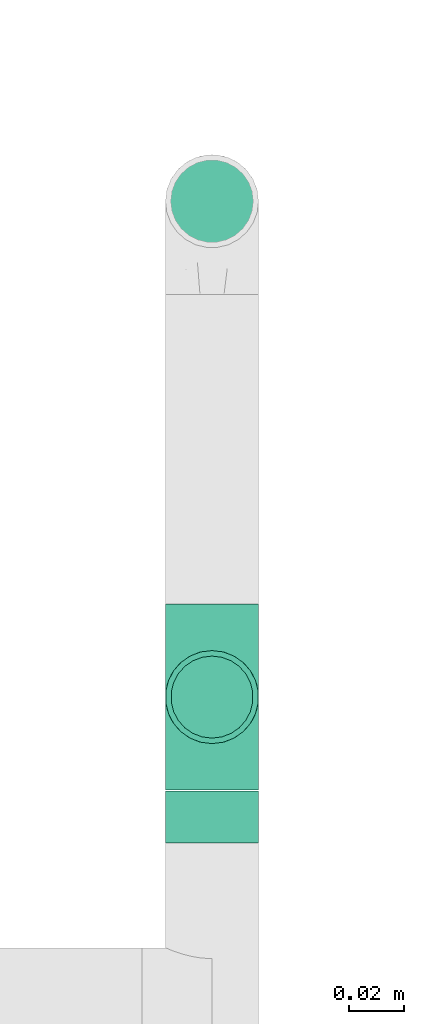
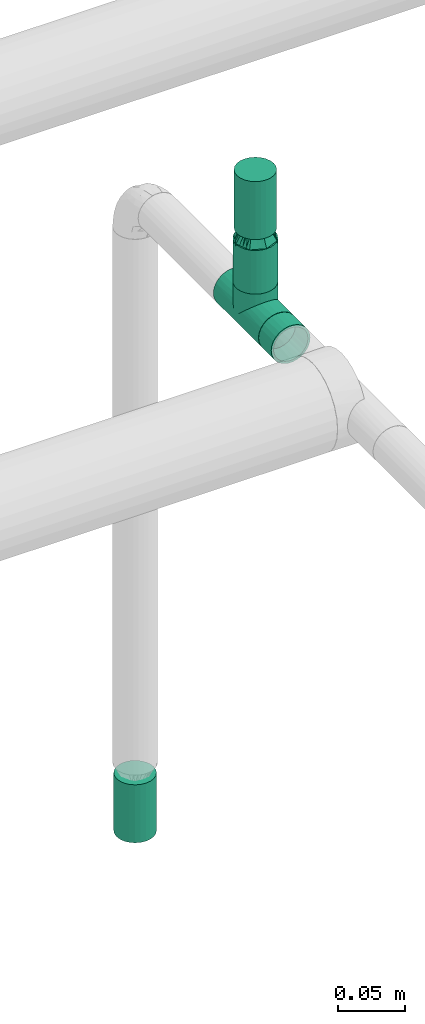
# One storey, part 18 of 51: 2 flow fittings, 2 flow segments, 2 flow terminals.
"""IFC2X3 building model written with IfcOpenShell, lengths in millimetres."""

from ifc_helpers import new_model, entity, si_unit, converted_unit, derived_unit, direction, frame, origin_with_axes, origin_2d_with_axis, place, context, subcontext, project, spatial, hollow_circle, extrude, open_shell, surface_model, source, transform, mapped, type_object, element, save


model = new_model("IFC2X3")

# Units and contexts
model_context = context("Model", 3, precision=0.01, world=frame((0.0, 4.29681676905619e-09, 0.0)), true_north=direction((4.01073788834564e-13, 1.0)))
plan_context = context("Plan", 3, precision=0.01, world=frame((0.0, 4.29681676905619e-09, 0.0)), true_north=direction((4.01073788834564e-13, 1.0)))
body_context = subcontext(model_context, "Body", "Model", "MODEL_VIEW")
ifc_project = project(units=[converted_unit("PLANEANGLEUNIT", "DEGREE", entity("IfcPositiveLengthMeasure", 0.0174532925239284), si_unit("PLANEANGLEUNIT", "RADIAN"), dimensions=[0, 0, 0, 0, 0, 0, 0]), si_unit("AREAUNIT", "SQUARE_METRE"), si_unit("LENGTHUNIT", "METRE", prefix="MILLI"), si_unit("MASSUNIT", "GRAM", prefix="KILO"), si_unit("POWERUNIT", "WATT"), si_unit("PRESSUREUNIT", "PASCAL"), si_unit("FORCEUNIT", "NEWTON", prefix="KILO"), si_unit("ELECTRICVOLTAGEUNIT", "VOLT"), si_unit("ELECTRICCURRENTUNIT", "AMPERE"), si_unit("THERMODYNAMICTEMPERATUREUNIT", "DEGREE_CELSIUS"), si_unit("TIMEUNIT", "SECOND"), si_unit("VOLUMEUNIT", "CUBIC_METRE"), derived_unit("LINEARVELOCITYUNIT", [(si_unit("LENGTHUNIT", "METRE"), 1), (si_unit("TIMEUNIT", "SECOND"), -1)]), derived_unit("VOLUMETRICFLOWRATEUNIT", [(si_unit("VOLUMEUNIT", "CUBIC_METRE"), 1), (si_unit("TIMEUNIT", "SECOND"), -1)]), derived_unit("THERMALTRANSMITTANCEUNIT", [(si_unit("POWERUNIT", "WATT"), 1), (si_unit("THERMODYNAMICTEMPERATUREUNIT", "KELVIN"), -1), (si_unit("AREAUNIT", "SQUARE_METRE"), -1)]), derived_unit("SOUNDPRESSUREUNIT", [(si_unit("PRESSUREUNIT", "PASCAL"), 1)])], contexts=[model_context, plan_context])

# Site, building, storey
site_placement = place(None, frame((0.0, -4.29681676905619e-09, 0.0), z_axis=(0.0, 0.0, 1.0), x_axis=(1.0, 0.0, 0.0)))
site = spatial("IfcSite", under=ifc_project, at=site_placement, Name="ENGM", CompositionType="ELEMENT")
building_placement = place(site_placement, frame((0.0, 4.29681676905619e-09, 0.0), z_axis=(0.0, 0.0, 1.0), x_axis=(1.0, 0.0, 0.0)))
building = spatial("IfcBuilding", under=site, at=building_placement, Name="TH", CompositionType="ELEMENT")
storey_placement = place(building_placement, frame((0.0, 0.0, 210200.0), z_axis=(0.0, 0.0, 1.0), x_axis=(1.0, 0.0, 0.0)))
storey = spatial("IfcBuildingStorey", under=building, at=storey_placement, Name="Nivå F - 0,7 m", CompositionType="ELEMENT", Elevation=210200.0)

# Flow fittings
pipe_fitting_type_1 = type_object("IfcPipeFittingType", Name="magi_pipe_fe_reducer_centric_short_NOR", PredefinedType="TRANSITION")
shared_shape_1 = source(origin_with_axes(), body_context, "Body", "SurfaceModel", [
    surface_model("IfcShellBasedSurfaceModel", [(14.4, 4.37404, -16.32415), (14.4, 8.45, -14.63583), (14.4, 11.9501, -11.9501), (14.4, -8.45, -14.63583), (14.4, 16.32415, -4.37404), (14.4, 16.32415, 4.37404), (14.4, 14.63583, -8.45), (14.4, 0.0, -16.9), (14.4, -4.37404, -16.32415), (14.4, -11.9501, -11.9501), (14.4, -16.32415, -4.37404), (14.4, -14.63583, -8.45), (14.4, -16.32415, 4.37404), (14.4, 16.9, 0.0), (14.4, 14.63583, 8.45), (14.4, 11.9501, 11.9501), (14.4, 4.37404, 16.32415), (14.4, 8.45, 14.63583), (14.4, 0.0, 16.9), (14.4, -14.63583, 8.45), (14.4, -16.9, 0.0), (14.4, -8.45, 14.63583), (14.4, -11.9501, 11.9501), (14.4, -4.37404, 16.32415), (12.4, 4.37404, 16.32415), (12.4, -14.63583, 8.45), (12.4, 0.0, 16.9), (12.4, 16.32415, 4.37404), (12.4, 8.45, 14.63583), (12.4, 11.9501, 11.9501), (12.4, 14.63583, 8.45), (12.4, -8.45, 14.63583), (12.4, -11.9501, 11.9501), (12.4, -4.37404, 16.32415), (12.4, -16.32415, 4.37404), (12.4, -16.32415, -4.37404), (12.4, -16.9, 0.0), (12.4, -8.45, -14.63583), (12.4, 16.32415, -4.37404), (12.4, 11.9501, -11.9501), (12.4, 14.63583, -8.45), (12.4, 8.45, -14.63583), (12.4, 4.37404, -16.32415), (12.4, 0.0, -16.9), (12.4, -11.9501, -11.9501), (12.4, -14.63583, -8.45), (12.4, -4.37404, -16.32415), (12.4, 16.9, 0.0), (-2.0, 10.33541, 2.76936), (-2.0, 0.0, 10.7), (-2.0, 2.76936, 10.33541), (-2.0, 7.56604, 7.56604), (-2.0, 5.35, 9.26647), (-2.0, 9.26647, 5.35), (-2.0, -9.26647, 5.35), (-2.0, -2.76936, 10.33541), (-2.0, -7.56604, 7.56604), (-2.0, -5.35, 9.26647), (-2.0, -10.33541, 2.76936), (-2.0, -10.33541, -2.76936), (-2.0, -10.7, 0.0), (-2.0, 10.33541, -2.76936), (-2.0, 7.56604, -7.56604), (-2.0, 9.26647, -5.35), (-2.0, 5.35, -9.26647), (-2.0, -5.35, -9.26647), (-2.0, 2.76936, -10.33541), (-2.0, -7.56604, -7.56604), (-2.0, -9.26647, -5.35), (-2.0, 0.0, -10.7), (-2.0, -2.76936, -10.33541), (-2.0, 10.7, 0.0), (0.0, 5.35, -9.26647), (0.0, 0.0, -10.7), (0.0, 2.76936, -10.33541), (0.0, 10.33541, -2.76936), (0.0, 7.56604, -7.56604), (0.0, -5.35, -9.26647), (0.0, 9.26647, -5.35), (0.0, -9.26647, 5.35), (0.0, -2.76936, -10.33541), (0.0, -7.56604, -7.56604), (0.0, -10.33541, -2.76936), (0.0, -9.26647, -5.35), (0.0, 10.33541, 2.76936), (0.0, 10.7, 0.0), (0.0, 9.26647, 5.35), (0.0, 7.56604, 7.56604), (0.0, 2.76936, 10.33541), (0.0, 0.0, 10.7), (0.0, 5.35, 9.26647), (0.0, -10.33541, 2.76936), (0.0, -10.7, 0.0), (0.0, -7.56604, 7.56604), (0.0, -2.76936, 10.33541), (0.0, -5.35, 9.26647), (0.0, -9.3625, -2.31662), (12.4, -14.42505, -5.97505), (12.4, -15.66253, -2.98753), (0.0, 6.6875, -6.94985), (12.4, 8.96258, -13.18758), (0.0, -6.6875, -6.94985), (12.4, -8.96258, -13.18758), (0.0, 9.3625, -2.31662), (12.4, 15.66253, -2.98753), (12.4, 14.42505, -5.97505), (12.4, -5.97505, -14.42505), (12.4, 5.97505, -14.42505), (0.0, 2.675, -9.26647), (12.4, 13.18758, -8.96258), (0.0, -2.675, -9.26647), (12.4, -13.18758, -8.96258), (0.0, -8.025, -4.63324), (12.4, 2.98753, -15.66253), (0.0, 0.0, -9.26647), (12.4, -2.98753, -15.66253), (0.0, 8.025, -4.63324), (0.0, 9.3625, 2.31662), (12.4, 14.42505, 5.97505), (12.4, 15.66253, 2.98753), (0.0, -6.6875, 6.94985), (12.4, -8.96258, 13.18758), (0.0, 6.6875, 6.94985), (12.4, 8.96258, 13.18758), (0.0, -9.3625, 2.31662), (12.4, -15.66253, 2.98753), (12.4, -14.42505, 5.97505), (12.4, 5.97505, 14.42505), (12.4, -5.97505, 14.42505), (0.0, -2.675, 9.26647), (12.4, -13.18758, 8.96258), (0.0, 2.675, 9.26647), (12.4, 13.18758, 8.96258), (0.0, 8.025, 4.63324), (12.4, -2.98753, 15.66253), (0.0, 0.0, 9.26647), (12.4, 2.98753, 15.66253), (0.0, -8.025, 4.63324)], [open_shell([[[0, 1, 2]], [[3, 0, 2]], [[2, 4, 5]], [[4, 2, 6]], [[2, 5, 3]], [[7, 3, 8]], [[7, 0, 3]], [[9, 10, 11]], [[10, 9, 3]], [[3, 12, 10]], [[5, 4, 13]], [[5, 14, 15]], [[5, 15, 16]], [[16, 12, 3]], [[16, 15, 17]], [[12, 16, 18]], [[18, 19, 12]], [[20, 10, 12]], [[19, 21, 22]], [[19, 18, 21]], [[21, 18, 23]], [[3, 5, 16]], [[24, 25, 26]], [[27, 24, 28]], [[29, 30, 27]], [[29, 27, 28]], [[25, 24, 27]], [[31, 25, 32]], [[31, 33, 26]], [[26, 25, 31]], [[34, 25, 27]], [[34, 35, 36]], [[34, 27, 37]], [[27, 38, 39]], [[39, 38, 40]], [[39, 41, 42]], [[37, 27, 39]], [[42, 43, 39]], [[35, 44, 45]], [[44, 35, 37]], [[37, 43, 46]], [[35, 34, 37]], [[39, 43, 37]], [[38, 27, 47]], [[35, 10, 36]], [[45, 11, 35]], [[3, 44, 37]], [[45, 44, 9]], [[8, 37, 46]], [[35, 11, 10]], [[10, 20, 36]], [[8, 3, 37]], [[9, 44, 3]], [[9, 11, 45]], [[7, 8, 46]], [[46, 43, 7]], [[42, 0, 43]], [[41, 1, 42]], [[6, 39, 40]], [[41, 39, 2]], [[4, 40, 38]], [[41, 2, 1]], [[1, 0, 42]], [[13, 4, 38]], [[6, 40, 4]], [[6, 2, 39]], [[47, 13, 38]], [[43, 0, 7]], [[27, 5, 47]], [[30, 14, 27]], [[17, 29, 28]], [[30, 29, 15]], [[16, 28, 24]], [[27, 14, 5]], [[5, 13, 47]], [[16, 17, 28]], [[15, 29, 17]], [[15, 14, 30]], [[18, 16, 24]], [[24, 26, 18]], [[33, 23, 26]], [[31, 21, 33]], [[19, 32, 25]], [[31, 32, 22]], [[12, 25, 34]], [[31, 22, 21]], [[21, 23, 33]], [[20, 12, 34]], [[19, 25, 12]], [[19, 22, 32]], [[36, 20, 34]], [[26, 23, 18]], [[48, 49, 50]], [[51, 50, 52]], [[51, 53, 48]], [[51, 48, 50]], [[49, 48, 54]], [[55, 56, 57]], [[56, 55, 54]], [[58, 59, 60]], [[54, 55, 49]], [[58, 54, 59]], [[54, 48, 61]], [[59, 54, 61]], [[62, 61, 63]], [[59, 62, 64]], [[61, 62, 59]], [[65, 64, 66]], [[59, 67, 68]], [[67, 59, 65]], [[65, 69, 70]], [[65, 59, 64]], [[66, 69, 65]], [[61, 48, 71]], [[72, 73, 74]], [[75, 72, 76]], [[77, 72, 75]], [[75, 76, 78]], [[79, 77, 75]], [[73, 77, 80]], [[73, 72, 77]], [[81, 82, 83]], [[82, 81, 77]], [[77, 79, 82]], [[84, 75, 85]], [[84, 86, 87]], [[75, 87, 79]], [[88, 89, 87]], [[88, 87, 90]], [[79, 87, 89]], [[82, 91, 92]], [[79, 91, 82]], [[93, 94, 95]], [[94, 93, 79]], [[89, 94, 79]], [[75, 84, 87]], [[59, 82, 60]], [[68, 83, 59]], [[77, 67, 65]], [[68, 67, 81]], [[80, 65, 70]], [[59, 83, 82]], [[82, 92, 60]], [[80, 77, 65]], [[81, 67, 77]], [[81, 83, 68]], [[73, 80, 70]], [[70, 69, 73]], [[66, 74, 69]], [[64, 72, 66]], [[78, 62, 63]], [[64, 62, 76]], [[75, 63, 61]], [[64, 76, 72]], [[72, 74, 66]], [[85, 75, 61]], [[78, 63, 75]], [[78, 76, 62]], [[71, 85, 61]], [[69, 74, 73]], [[48, 84, 71]], [[53, 86, 48]], [[90, 51, 52]], [[53, 51, 87]], [[88, 52, 50]], [[48, 86, 84]], [[84, 85, 71]], [[88, 90, 52]], [[87, 51, 90]], [[87, 86, 53]], [[89, 88, 50]], [[50, 49, 89]], [[55, 94, 49]], [[57, 95, 55]], [[79, 56, 54]], [[57, 56, 93]], [[91, 54, 58]], [[57, 93, 95]], [[95, 94, 55]], [[92, 91, 58]], [[79, 54, 91]], [[79, 93, 56]], [[60, 92, 58]], [[49, 94, 89]], [[29, 26, 39]], [[39, 47, 29]], [[36, 26, 32]], [[36, 44, 43]], [[43, 39, 36]], [[36, 39, 26]], [[92, 95, 77]], [[85, 95, 90]], [[85, 72, 77]], [[85, 77, 95]], [[96, 97, 98]], [[92, 96, 98]], [[99, 100, 72]], [[98, 36, 92]], [[44, 101, 102]], [[101, 77, 102]], [[103, 104, 105]], [[85, 47, 104]], [[77, 106, 102]], [[107, 108, 72]], [[109, 39, 99]], [[106, 77, 110]], [[101, 111, 112]], [[113, 114, 108]], [[100, 99, 39]], [[110, 115, 106]], [[99, 116, 109]], [[100, 107, 72]], [[96, 112, 97]], [[105, 116, 103]], [[85, 104, 103]], [[108, 107, 113]], [[113, 43, 114]], [[116, 105, 109]], [[114, 115, 110]], [[43, 115, 114]], [[111, 101, 44]], [[111, 97, 112]], [[117, 118, 119]], [[85, 117, 119]], [[120, 121, 95]], [[119, 47, 85]], [[29, 122, 123]], [[122, 90, 123]], [[124, 125, 126]], [[92, 36, 125]], [[90, 127, 123]], [[128, 129, 95]], [[130, 32, 120]], [[127, 90, 131]], [[122, 132, 133]], [[134, 135, 129]], [[121, 120, 32]], [[131, 136, 127]], [[120, 137, 130]], [[121, 128, 95]], [[117, 133, 118]], [[126, 137, 124]], [[92, 125, 124]], [[129, 128, 134]], [[134, 26, 135]], [[137, 126, 130]], [[135, 136, 131]], [[26, 136, 135]], [[132, 122, 29]], [[132, 118, 133]]])]),
])
flow_fitting_1_placement = place(storey_placement, frame((897100.0, 483988.59352, 3010.65001000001), z_axis=(1.0, 0.0, 0.0), x_axis=(0.0, 0.0, -1.0)))
element("IfcFlowFitting", 1, at=flow_fitting_1_placement, inside=storey, type_object=pipe_fitting_type_1, Name="magi_pipe_fe_reducer_centric_short_NOR", context=body_context, shape_type="MappedRepresentation", body=[
    mapped(shared_shape_1, transform((0.0, 0.0, 0.0), scale=1.0)),
])
pipe_fitting_type_2 = type_object("IfcPipeFittingType", Name="magi_pipe_fe_tee_centric_90_NOR", PredefinedType="JUNCTION")
shared_shape_2 = source(origin_with_axes(), body_context, "Body", "SurfaceModel", [
    surface_model("IfcShellBasedSurfaceModel", [(-33.8, 4.37404, -16.32415), (-33.8, 0.0, -16.9), (-33.8, 16.32415, -4.37404), (-33.8, 8.45, -14.63583), (-33.8, 11.9501, -11.9501), (-33.8, 14.63583, -8.45), (-33.8, -16.9, 0.0), (-33.8, -11.9501, -11.9501), (-33.8, -14.63583, -8.45), (-33.8, -8.45, -14.63583), (-33.8, -4.37404, -16.32415), (-33.8, -16.32415, -4.37404), (-33.8, 14.63583, 8.45), (-33.8, 16.32415, 4.37404), (-33.8, -8.45, 14.63583), (-33.8, 8.45, 14.63583), (-33.8, 11.9501, 11.9501), (-33.8, 4.37404, 16.32415), (-33.8, 0.0, 16.9), (-33.8, -11.9501, 11.9501), (-33.8, -14.63583, 8.45), (-33.8, -16.32415, 4.37404), (-33.8, -4.37404, 16.32415), (-33.8, 16.9, 0.0), (33.8, 4.37404, -16.32415), (33.8, -16.9, 0.0), (33.8, 0.0, -16.9), (33.8, 14.63583, -8.45), (33.8, 8.45, -14.63583), (33.8, 16.32415, -4.37404), (33.8, 11.9501, -11.9501), (33.8, -16.32415, 4.37404), (33.8, -8.45, -14.63583), (33.8, -4.37404, -16.32415), (33.8, -11.9501, -11.9501), (33.8, -14.63583, -8.45), (33.8, -16.32415, -4.37404), (33.8, 16.32415, 4.37404), (33.8, 8.45, 14.63583), (33.8, 14.63583, 8.45), (33.8, 11.9501, 11.9501), (33.8, -8.45, 14.63583), (33.8, 4.37404, 16.32415), (33.8, -14.63583, 8.45), (33.8, -11.9501, 11.9501), (33.8, 0.0, 16.9), (33.8, -4.37404, 16.32415), (33.8, 16.9, 0.0), (16.28698, -16.28698, 4.51047), (16.9, -16.9, 0.0), (14.62704, -14.62704, 8.4652), (9.47213, -9.47213, 13.99602), (12.26343, -12.26343, 11.62834), (-16.9, -16.9, 0.0), (-16.28698, -16.28698, 4.51047), (-14.62704, -14.62704, 8.4652), (-12.26343, -12.26343, 11.62834), (-9.47213, -9.47213, 13.99602), (-6.42894, -6.42894, 15.62942), (6.42894, -6.42894, 15.62942), (3.24522, -3.24522, 16.58549), (0.0, 0.0, 16.9), (-3.24522, -3.24522, 16.58549), (3.24522, -3.24522, -16.58549), (0.0, 0.0, -16.9), (-3.24522, -3.24522, -16.58549), (-6.42894, -6.42894, -15.62942), (6.42894, -6.42894, -15.62942), (9.47213, -9.47213, -13.99602), (12.26343, -12.26343, -11.62834), (14.62704, -14.62704, -8.4652), (16.28698, -16.28698, -4.51047), (-9.47213, -9.47213, -13.99602), (-12.26343, -12.26343, -11.62834), (-16.28698, -16.28698, -4.51047), (-14.62704, -14.62704, -8.4652), (4.37404, -25.35, -16.32415), (-16.9, -25.35, 0.0), (0.0, -25.35, -16.9), (14.63583, -25.35, -8.45), (8.45, -25.35, -14.63583), (16.32415, -25.35, -4.37404), (11.9501, -25.35, -11.9501), (-11.9501, -25.35, -11.9501), (-8.45, -25.35, -14.63583), (-4.37404, -25.35, -16.32415), (-14.63583, -25.35, -8.45), (-16.32415, -25.35, -4.37404), (16.9, -25.35, 0.0), (8.45, -25.35, 14.63583), (16.32415, -25.35, 4.37404), (14.63583, -25.35, 8.45), (-8.45, -25.35, 14.63583), (11.9501, -25.35, 11.9501), (4.37404, -25.35, 16.32415), (-16.32415, -25.35, 4.37404), (-11.9501, -25.35, 11.9501), (-14.63583, -25.35, 8.45), (0.0, -25.35, 16.9), (-4.37404, -25.35, 16.32415)], [open_shell([[[0, 1, 2]], [[3, 0, 4]], [[0, 2, 5]], [[4, 0, 5]], [[6, 2, 1]], [[7, 8, 9]], [[1, 10, 9]], [[11, 6, 8]], [[1, 9, 8]], [[1, 8, 6]], [[6, 12, 2]], [[12, 13, 2]], [[14, 12, 6]], [[12, 14, 15]], [[16, 12, 15]], [[17, 15, 18]], [[19, 14, 20]], [[21, 20, 14]], [[22, 18, 14]], [[14, 6, 21]], [[14, 18, 15]], [[23, 2, 13]], [[24, 25, 26]], [[27, 24, 28]], [[27, 29, 24]], [[27, 28, 30]], [[31, 25, 24]], [[26, 32, 33]], [[26, 34, 32]], [[35, 25, 36]], [[35, 34, 26]], [[25, 35, 26]], [[24, 29, 31]], [[29, 37, 38]], [[38, 37, 39]], [[38, 31, 29]], [[38, 39, 40]], [[41, 38, 42]], [[43, 41, 44]], [[41, 43, 31]], [[41, 45, 46]], [[41, 31, 38]], [[42, 45, 41]], [[29, 47, 37]], [[31, 43, 48]], [[25, 31, 49]], [[49, 31, 48]], [[43, 50, 48]], [[44, 41, 51]], [[50, 43, 52]], [[51, 52, 44]], [[52, 43, 44]], [[53, 54, 21]], [[53, 21, 6]], [[21, 54, 20]], [[54, 55, 20]], [[56, 57, 19]], [[19, 20, 56]], [[19, 57, 14]], [[56, 20, 55]], [[14, 57, 58]], [[51, 41, 59]], [[60, 45, 61]], [[59, 46, 60]], [[46, 59, 41]], [[60, 46, 45]], [[61, 45, 42]], [[39, 37, 13]], [[16, 38, 40]], [[12, 40, 39]], [[42, 38, 15]], [[23, 37, 47]], [[62, 61, 18]], [[62, 22, 58]], [[22, 62, 18]], [[58, 22, 14]], [[61, 17, 18]], [[42, 17, 61]], [[15, 17, 42]], [[15, 38, 16]], [[12, 16, 40]], [[13, 12, 39]], [[37, 23, 13]], [[5, 27, 30]], [[23, 47, 29]], [[30, 28, 3]], [[27, 2, 29]], [[26, 33, 63]], [[26, 64, 24]], [[64, 26, 63]], [[28, 24, 0]], [[64, 0, 24]], [[4, 30, 3]], [[2, 27, 5]], [[5, 30, 4]], [[2, 23, 29]], [[65, 66, 10]], [[1, 0, 64]], [[1, 65, 10]], [[66, 9, 10]], [[0, 3, 28]], [[1, 64, 65]], [[63, 33, 67]], [[32, 34, 68]], [[69, 68, 34]], [[35, 70, 69]], [[69, 34, 35]], [[32, 68, 67]], [[36, 25, 49]], [[36, 71, 35]], [[71, 36, 49]], [[35, 71, 70]], [[72, 9, 66]], [[72, 7, 9]], [[7, 72, 73]], [[7, 73, 8]], [[74, 53, 11]], [[75, 74, 8]], [[74, 11, 8]], [[11, 53, 6]], [[75, 8, 73]], [[32, 67, 33]], [[76, 77, 78]], [[79, 76, 80]], [[79, 81, 76]], [[79, 80, 82]], [[77, 76, 81]], [[78, 83, 84]], [[84, 85, 78]], [[86, 77, 87]], [[83, 78, 86]], [[77, 86, 78]], [[81, 88, 77]], [[89, 88, 90]], [[89, 90, 91]], [[92, 77, 89]], [[89, 91, 93]], [[92, 89, 94]], [[95, 96, 97]], [[96, 95, 92]], [[92, 98, 99]], [[95, 77, 92]], [[94, 98, 92]], [[89, 77, 88]], [[77, 95, 53]], [[54, 53, 95]], [[97, 96, 56]], [[96, 92, 57]], [[95, 97, 54]], [[58, 92, 99]], [[55, 54, 97]], [[56, 55, 97]], [[58, 57, 92]], [[98, 61, 62]], [[58, 99, 62]], [[56, 96, 57]], [[62, 99, 98]], [[94, 60, 98]], [[89, 59, 94]], [[91, 90, 48]], [[52, 93, 91]], [[93, 51, 89]], [[49, 90, 88]], [[59, 60, 94]], [[51, 59, 89]], [[49, 48, 90]], [[50, 52, 91]], [[48, 50, 91]], [[51, 93, 52]], [[98, 60, 61]], [[88, 81, 49]], [[71, 49, 81]], [[79, 82, 69]], [[82, 80, 68]], [[81, 79, 71]], [[67, 80, 76]], [[70, 71, 79]], [[69, 70, 79]], [[67, 68, 80]], [[78, 64, 63]], [[67, 76, 63]], [[69, 82, 68]], [[63, 76, 78]], [[85, 65, 78]], [[84, 66, 85]], [[86, 87, 74]], [[86, 73, 83]], [[72, 84, 83]], [[53, 87, 77]], [[66, 65, 85]], [[72, 66, 84]], [[53, 74, 87]], [[75, 73, 86]], [[74, 75, 86]], [[72, 83, 73]], [[78, 65, 64]]])]),
])
flow_fitting_2_placement = place(storey_placement, frame((897100.0, 483988.59352, 2933.0), z_axis=(1.0, 0.0, 0.0), x_axis=(0.0, -1.0, 0.0)))
element("IfcFlowFitting", 2, at=flow_fitting_2_placement, inside=storey, type_object=pipe_fitting_type_2, Name="magi_pipe_fe_tee_centric_90_NOR", context=body_context, shape_type="MappedRepresentation", body=[
    mapped(shared_shape_2, transform((0.0, 0.0, 0.0), scale=1.0)),
])

# Flow segments
pipe_segment_type = type_object("IfcPipeSegmentType", Name="Stålrør normaltykke", PredefinedType="RIGIDSEGMENT")
shared_shape_3 = source(origin_with_axes(), body_context, "Body", "SweptSolid", [
    extrude(hollow_circle(Radius=16.9, WallThickness=2.0, at=origin_2d_with_axis()), frame((0.0, 0.0, 0.0), z_axis=(1.0, 0.0, 0.0), x_axis=(0.0, 1.0, 0.0)), (0.0, 0.0, 1.0), 18.8),
])
flow_segment_1_placement = place(storey_placement, frame((897100.0, 483935.65519, 2933.0), z_axis=(0.0, 0.0, 1.0), x_axis=(0.0, 1.0, 0.0)))
element("IfcFlowSegment", 3, at=flow_segment_1_placement, inside=storey, type_object=pipe_segment_type, Name="Stålrør normaltykke", context=body_context, shape_type="MappedRepresentation", body=[
    mapped(shared_shape_3, transform((0.0, 0.0, 0.0), scale=1.0)),
])
shared_shape_4 = source(origin_with_axes(), body_context, "Body", "SweptSolid", [
    extrude(hollow_circle(Radius=16.9, WallThickness=2.0, at=origin_2d_with_axis()), frame((0.0, 0.0, 0.0), z_axis=(1.0, 0.0, 0.0), x_axis=(0.0, 1.0, 0.0)), (0.0, 0.0, 1.0), 39.9),
])
flow_segment_2_placement = place(storey_placement, frame((897100.0, 483988.59352, 2998.25000999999), z_axis=(-1.0, 0.0, 0.0), x_axis=(0.0, 0.0, -1.0)))
element("IfcFlowSegment", 4, at=flow_segment_2_placement, inside=storey, type_object=pipe_segment_type, Name="Stålrør normaltykke", context=body_context, shape_type="MappedRepresentation", body=[
    mapped(shared_shape_4, transform((0.0, 0.0, 0.0), scale=1.0)),
])

# Flow terminals
fire_suppression_terminal_type_1 = type_object("IfcFireSuppressionTerminalType", Name="SP-15-K80-68DGR-STD-HIMLING", PredefinedType="NOTDEFINED")
shared_shape_5 = source(origin_with_axes(), body_context, "Body", "SurfaceModel", [
    surface_model("IfcShellBasedSurfaceModel", [(4.1411, -15.45481, 53.0), (8.0, -13.85641, 53.0), (11.31371, -11.31371, 53.0), (-8.0, -13.85641, 53.0), (15.45481, -4.1411, 53.0), (16.0, 0.0, 53.0), (13.85641, -8.0, 53.0), (0.0, -16.0, 53.0), (-4.1411, -15.45481, 53.0), (-13.85641, -8.0, 53.0), (-11.31371, -11.31371, 53.0), (-15.45481, -4.1411, 53.0), (15.45481, 4.1411, 53.0), (13.85641, 8.0, 53.0), (11.31371, 11.31371, 53.0), (-4.1411, 15.45481, 53.0), (8.0, 13.85641, 53.0), (4.1411, 15.45481, 53.0), (0.0, 16.0, 53.0), (-13.85641, 8.0, 53.0), (-15.45481, 4.1411, 53.0), (-16.0, 0.0, 53.0), (-11.31371, 11.31371, 53.0), (-8.0, 13.85641, 53.0), (0.0, 16.0, 0.0), (4.1411, 15.45481, 0.0), (8.0, 13.85641, 0.0), (-4.1411, 15.45481, 0.0), (11.31371, 11.31371, 0.0), (13.85641, 8.0, 0.0), (15.45481, 4.1411, 0.0), (-15.45481, -4.1411, 0.0), (-11.31371, 11.31371, 0.0), (-8.0, 13.85641, 0.0), (-13.85641, 8.0, 0.0), (-15.45481, 4.1411, 0.0), (-16.0, 0.0, 0.0), (4.1411, -15.45481, 0.0), (16.0, 0.0, 0.0), (15.45481, -4.1411, 0.0), (13.85641, -8.0, 0.0), (11.31371, -11.31371, 0.0), (8.0, -13.85641, 0.0), (-8.0, -13.85641, 0.0), (-13.85641, -8.0, 0.0), (-11.31371, -11.31371, 0.0), (0.0, -16.0, 0.0), (-4.1411, -15.45481, 0.0)], [open_shell([[[0, 1, 2]], [[3, 0, 2]], [[4, 5, 2]], [[4, 2, 6]], [[3, 2, 5]], [[7, 3, 8]], [[7, 0, 3]], [[3, 9, 10]], [[9, 3, 11]], [[5, 11, 3]], [[5, 12, 11]], [[12, 13, 14]], [[15, 12, 14]], [[16, 17, 18]], [[14, 16, 15]], [[18, 15, 16]], [[11, 19, 20]], [[21, 11, 20]], [[22, 15, 23]], [[15, 22, 19]], [[19, 11, 15]], [[11, 12, 15]], [[24, 25, 26]], [[27, 24, 26]], [[28, 29, 30]], [[27, 26, 28]], [[27, 28, 31]], [[27, 32, 33]], [[32, 27, 34]], [[34, 31, 35]], [[31, 34, 27]], [[35, 31, 36]], [[28, 30, 31]], [[37, 38, 39]], [[37, 39, 40]], [[41, 42, 37]], [[41, 37, 40]], [[38, 37, 43]], [[44, 43, 45]], [[43, 44, 31]], [[43, 46, 47]], [[43, 31, 38]], [[37, 46, 43]], [[38, 31, 30]], [[11, 31, 44]], [[45, 9, 44]], [[3, 43, 47]], [[45, 43, 10]], [[8, 47, 46]], [[31, 21, 36]], [[31, 11, 21]], [[44, 9, 11]], [[45, 10, 9]], [[3, 10, 43]], [[47, 8, 3]], [[46, 7, 8]], [[0, 37, 42]], [[41, 1, 42]], [[6, 40, 39]], [[41, 40, 2]], [[4, 39, 38]], [[37, 0, 7]], [[42, 1, 0]], [[41, 2, 1]], [[40, 6, 2]], [[4, 6, 39]], [[38, 5, 4]], [[37, 7, 46]], [[12, 38, 30]], [[13, 30, 29]], [[16, 26, 25]], [[17, 25, 24]], [[30, 13, 12]], [[12, 5, 38]], [[28, 14, 13]], [[28, 26, 14]], [[14, 26, 16]], [[25, 17, 16]], [[28, 13, 29]], [[24, 18, 17]], [[15, 27, 33]], [[32, 23, 33]], [[19, 34, 35]], [[32, 34, 22]], [[20, 35, 36]], [[27, 15, 18]], [[33, 23, 15]], [[32, 22, 23]], [[34, 19, 22]], [[20, 19, 35]], [[36, 21, 20]], [[27, 18, 24]]])]),
])
flow_terminal_1_placement = place(storey_placement, frame((897100.0, 484168.69816, 2400.0), z_axis=(0.0, 0.0, -1.0), x_axis=(-1.0, 0.0, 0.0)))
element("IfcFlowTerminal", 5, at=flow_terminal_1_placement, inside=storey, type_object=fire_suppression_terminal_type_1, Name="SP-15-K80-68DGR-STD-HIMLING", context=body_context, shape_type="MappedRepresentation", body=[
    mapped(shared_shape_5, transform((0.0, 0.0, 0.0), scale=1.0)),
])
fire_suppression_terminal_type_2 = type_object("IfcFireSuppressionTerminalType", Name="SP-15-K80-68DGR-STD-STÅENDE", PredefinedType="NOTDEFINED")
flow_terminal_2_placement = place(storey_placement, frame((897100.0, 483988.59352, 3007.60201), z_axis=(0.0, 0.0, 1.0), x_axis=(1.0, 0.0, 0.0)))
element("IfcFlowTerminal", 6, at=flow_terminal_2_placement, inside=storey, type_object=fire_suppression_terminal_type_2, Name="SP-15-K80-68DGR-STD-STÅENDE", context=body_context, shape_type="MappedRepresentation", body=[
    mapped(shared_shape_5, transform((0.0, 0.0, 0.0), scale=1.0)),
])

save(model, "model.ifc")
